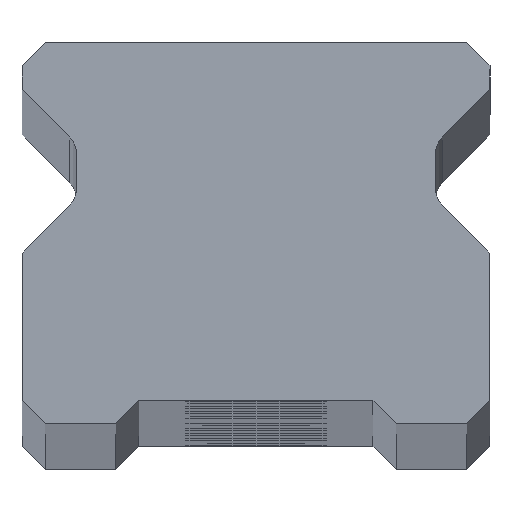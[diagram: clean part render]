
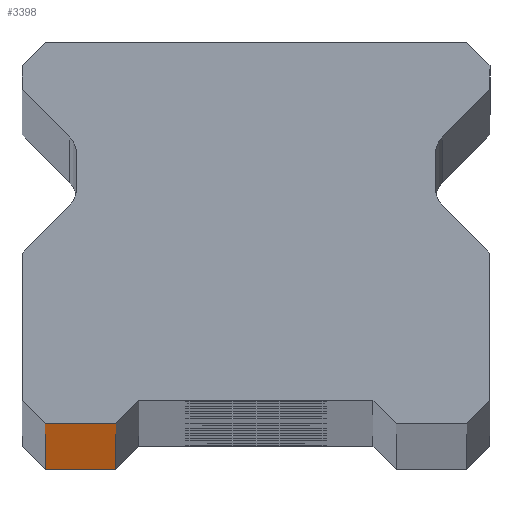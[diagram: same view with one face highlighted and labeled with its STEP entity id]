
A CAD part, top view. The second image highlights one B-rep face of the part: STEP entity #3398.
In plain terms, the highlighted planar face has unit normal (0, -1, 0).
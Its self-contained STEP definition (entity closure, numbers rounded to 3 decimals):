
#29 = CARTESIAN_POINT ( 'NONE',  ( -6., 0., -560. ) ) ;
#33 = EDGE_CURVE ( 'NONE', #1731, #1666, #3297, .T. ) ;
#134 = CARTESIAN_POINT ( 'NONE',  ( -6., 0., 560. ) ) ;
#509 = LINE ( 'NONE', #1797, #3453 ) ;
#575 = EDGE_LOOP ( 'NONE', ( #1265, #2128, #3585, #2829 ) ) ;
#784 = CARTESIAN_POINT ( 'NONE',  ( 10., 0., 560. ) ) ;
#863 = DIRECTION ( 'NONE',  ( 0., 0., 1. ) ) ;
#1089 = EDGE_CURVE ( 'NONE', #1666, #1320, #3102, .T. ) ;
#1095 = DIRECTION ( 'NONE',  ( 0., 1., 0. ) ) ;
#1199 = CARTESIAN_POINT ( 'NONE',  ( -9., 0., 560. ) ) ;
#1265 = ORIENTED_EDGE ( 'NONE', *, *, #33, .T. ) ;
#1320 = VERTEX_POINT ( 'NONE', #134 ) ;
#1666 = VERTEX_POINT ( 'NONE', #2977 ) ;
#1731 = VERTEX_POINT ( 'NONE', #1784 ) ;
#1784 = CARTESIAN_POINT ( 'NONE',  ( -9., 0., -560. ) ) ;
#1794 = FACE_OUTER_BOUND ( 'NONE', #575, .T. ) ;
#1797 = CARTESIAN_POINT ( 'NONE',  ( 10., 0., 560. ) ) ;
#2128 = ORIENTED_EDGE ( 'NONE', *, *, #1089, .T. ) ;
#2158 = LINE ( 'NONE', #1199, #3032 ) ;
#2544 = CARTESIAN_POINT ( 'NONE',  ( -9., 0., 560. ) ) ;
#2565 = AXIS2_PLACEMENT_3D ( 'NONE', #784, #1095, #3139 ) ;
#2614 = DIRECTION ( 'NONE',  ( 1., 0., 0. ) ) ;
#2829 = ORIENTED_EDGE ( 'NONE', *, *, #3176, .T. ) ;
#2868 = PLANE ( 'NONE',  #2565 ) ;
#2952 = DIRECTION ( 'NONE',  ( 1., 0., 0. ) ) ;
#2977 = CARTESIAN_POINT ( 'NONE',  ( -6., 0., -560. ) ) ;
#3032 = VECTOR ( 'NONE', #3589, 1000. ) ;
#3102 = LINE ( 'NONE', #29, #3334 ) ;
#3139 = DIRECTION ( 'NONE',  ( -1., 0., 0. ) ) ;
#3176 = EDGE_CURVE ( 'NONE', #3383, #1731, #2158, .T. ) ;
#3210 = CARTESIAN_POINT ( 'NONE',  ( 10., 0., -560. ) ) ;
#3230 = EDGE_CURVE ( 'NONE', #3383, #1320, #509, .T. ) ;
#3297 = LINE ( 'NONE', #3210, #3619 ) ;
#3334 = VECTOR ( 'NONE', #863, 1000. ) ;
#3383 = VERTEX_POINT ( 'NONE', #2544 ) ;
#3398 = ADVANCED_FACE ( 'NONE', ( #1794 ), #2868, .F. ) ;
#3453 = VECTOR ( 'NONE', #2952, 1000. ) ;
#3585 = ORIENTED_EDGE ( 'NONE', *, *, #3230, .F. ) ;
#3589 = DIRECTION ( 'NONE',  ( 0., 0., -1. ) ) ;
#3619 = VECTOR ( 'NONE', #2614, 1000. ) ;
